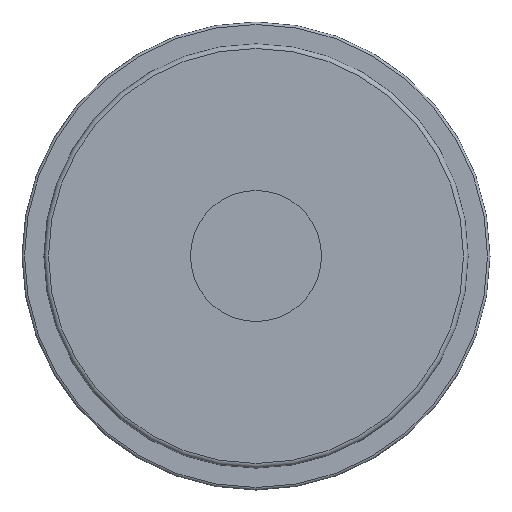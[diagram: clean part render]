
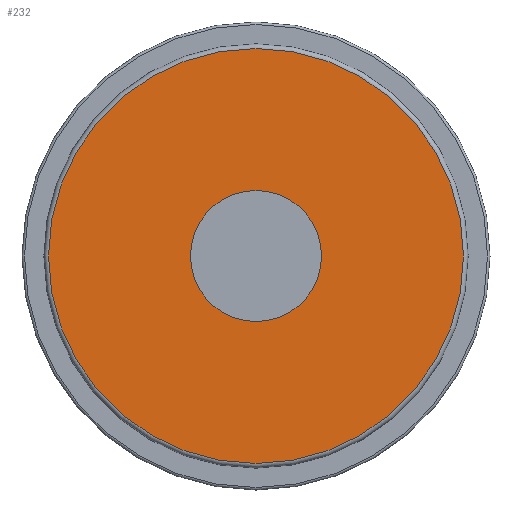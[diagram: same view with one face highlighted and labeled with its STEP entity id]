
A CAD part, left-side view. The second image highlights one B-rep face of the part: STEP entity #232.
In plain terms, the highlighted planar face has unit normal (-1, 0, 0).
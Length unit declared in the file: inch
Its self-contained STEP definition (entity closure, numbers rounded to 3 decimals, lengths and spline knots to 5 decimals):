
#46=FACE_BOUND('',#75,.T.);
#52=PLANE('',#281);
#62=FACE_OUTER_BOUND('',#74,.T.);
#74=EDGE_LOOP('',(#193,#194));
#75=EDGE_LOOP('',(#195));
#89=CIRCLE('',#258,0.42);
#103=CIRCLE('',#277,1.33);
#104=CIRCLE('',#278,1.33);
#111=VERTEX_POINT('',#404);
#124=VERTEX_POINT('',#437);
#125=VERTEX_POINT('',#439);
#132=EDGE_CURVE('',#111,#111,#89,.T.);
#147=EDGE_CURVE('',#124,#125,#103,.T.);
#148=EDGE_CURVE('',#125,#124,#104,.T.);
#193=ORIENTED_EDGE('',*,*,#148,.F.);
#194=ORIENTED_EDGE('',*,*,#147,.F.);
#195=ORIENTED_EDGE('',*,*,#132,.T.);
#232=ADVANCED_FACE('',(#62,#46),#52,.T.);
#258=AXIS2_PLACEMENT_3D('',#406,#309,#310);
#277=AXIS2_PLACEMENT_3D('',#440,#348,#349);
#278=AXIS2_PLACEMENT_3D('',#441,#350,#351);
#281=AXIS2_PLACEMENT_3D('',#445,#357,#358);
#309=DIRECTION('center_axis',(1.,0.,0.));
#310=DIRECTION('ref_axis',(0.,0.,-1.));
#348=DIRECTION('center_axis',(1.,0.,0.));
#349=DIRECTION('ref_axis',(0.,-1.,0.));
#350=DIRECTION('center_axis',(1.,0.,0.));
#351=DIRECTION('ref_axis',(0.,-1.,0.));
#357=DIRECTION('center_axis',(-1.,0.,0.));
#358=DIRECTION('ref_axis',(0.,0.,1.));
#404=CARTESIAN_POINT('',(0.,0.,0.42));
#406=CARTESIAN_POINT('Origin',(0.,0.,0.));
#437=CARTESIAN_POINT('',(0.,0.,1.33));
#439=CARTESIAN_POINT('',(0.,1.33,0.));
#440=CARTESIAN_POINT('Origin',(0.,0.,0.));
#441=CARTESIAN_POINT('Origin',(0.,0.,0.));
#445=CARTESIAN_POINT('Origin',(0.,1.36,0.));
